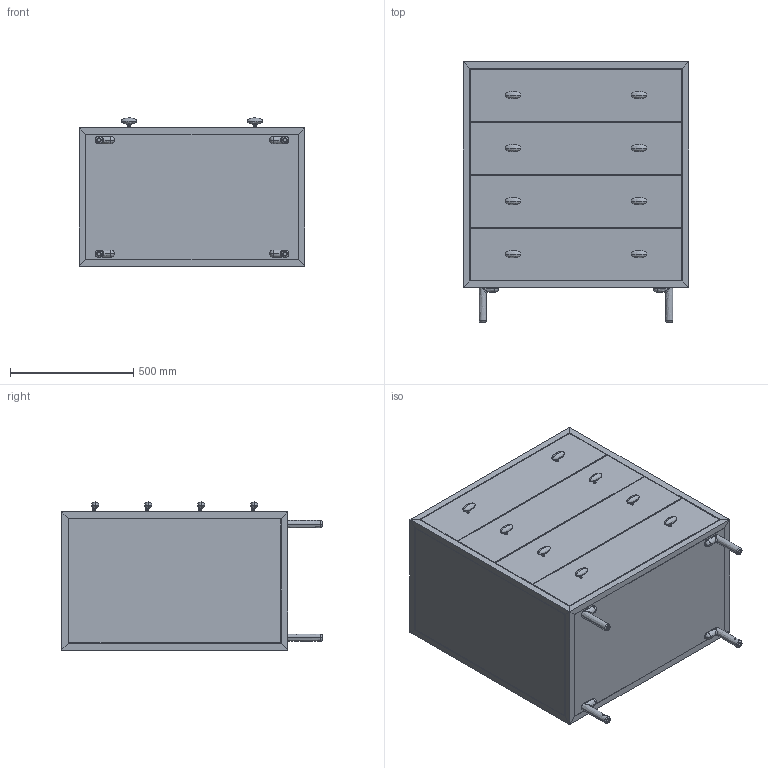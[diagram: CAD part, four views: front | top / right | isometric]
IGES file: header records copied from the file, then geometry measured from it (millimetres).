
Start section: SolidWorks IGES file using analytic representation for surfaces
Global section: file name: R:\Box Sync\Jason Miller\052 & 053 Classon Casegoods\sales related\3D drawings\sales related_053_Classon Chest of Drawers_vc_prmt.IGS; native system: SolidWorks 2016; preprocessor: SolidWorks 2016; author: ruben; date: 180131.182627; units: millimetre
Bounding box: 915 x 1054.99 x 600 mm (x, y, z)
Volume: 65746027.1 mm3; surface area: 8712326.3 mm2
Topology: 41 solids, 41 shells, 818 faces, 1888 edges, 1016 vertices
Faces by surface type: revolution 448, plane 282, bspline 88
